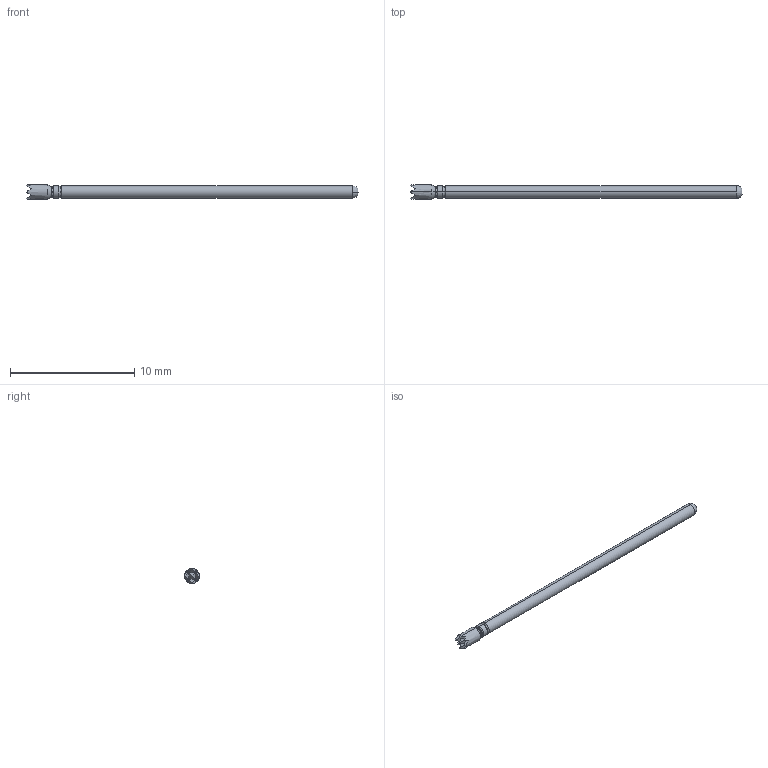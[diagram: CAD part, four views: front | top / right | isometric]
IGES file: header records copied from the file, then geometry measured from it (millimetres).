
Start section: SolidWorks IGES file using analytic representation for surfaces
Global section: file name: Z:\probe solid model mockups\Solidworks models\Parts\LFRE-1H FULL.IGS; native system: SolidWorks 2016; preprocessor: SolidWorks 2016; author: mlee; date: 180927.163149; units: inch
Bounding box: 26.67 x 1.19 x 1.19 mm (x, y, z)
Surface area: 88.1 mm2 (no closed solid volume)
Topology: 0 solids, 0 shells, 48 faces, 238 edges, 238 vertices
Faces by surface type: bspline 34, revolution 14
